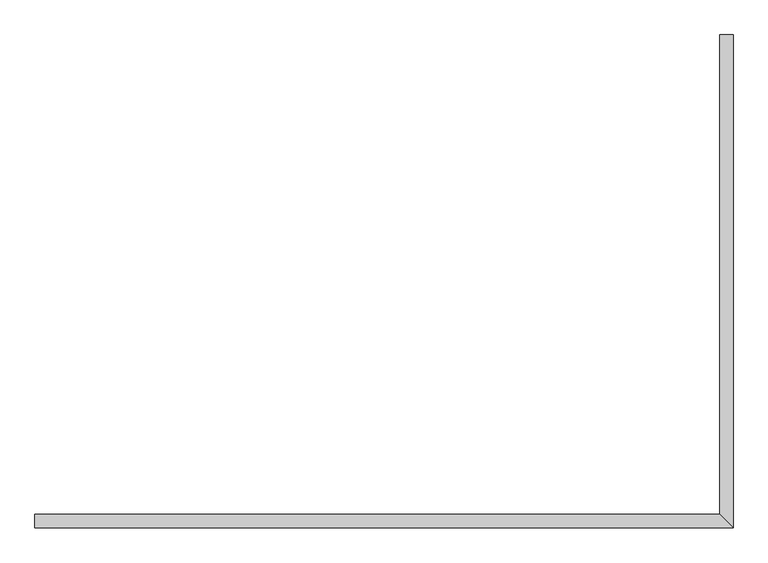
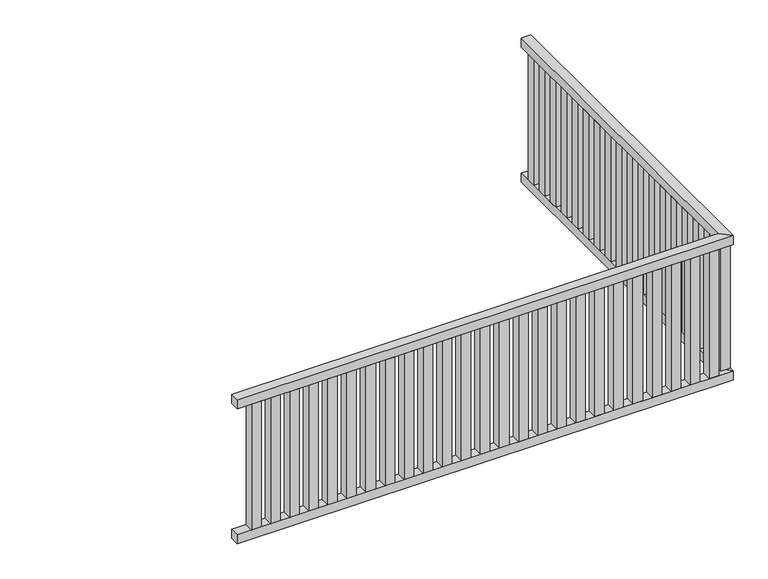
"""IFC4 building model written with IfcOpenShell, lengths in millimetres: railing geometry, creole porch rail."""

from ifc_helpers import new_model, si_unit, frame, origin, place, context, project, spatial, polyline, outline, extrude, faceted_brep, source, transform, mapped, element, save


def railing_c8e79896(model_context):
    return source(origin(), model_context, "Body", "SolidModel", [
        faceted_brep([(22068.3169554, -7066.1869756, 1981.2), (22068.3169554, -7066.1869756, 1930.4), (22068.3169554, -7116.9869756, 1930.4), (22068.3169554, -7116.9869756, 1981.2), (24659.1169554, -7066.1869756, 1981.2), (24659.1169554, -7066.1869756, 1930.4), (24709.9169554, -7116.9869756, 1930.4), (24709.9169554, -7116.9869756, 1981.2), (24659.1169554, -5250.0869756, 1981.2), (24709.9169554, -5250.0869756, 1981.2), (24709.9169554, -5250.0869756, 1930.4), (24659.1169554, -5250.0869756, 1930.4)], [[[0, 1, 2, 3]], [[1, 0, 4, 5]], [[2, 1, 5, 6]], [[3, 2, 6, 7]], [[0, 3, 7, 4]], [[8, 9, 10, 11]], [[5, 4, 8, 11]], [[6, 5, 11, 10]], [[7, 6, 10, 9]], [[4, 7, 9, 8]]]),
        faceted_brep([(22068.3169554, -7066.1869756, 1219.2), (22068.3169554, -7066.1869756, 1168.4), (22068.3169554, -7116.9869756, 1168.4), (22068.3169554, -7116.9869756, 1219.2), (24659.1169554, -7066.1869756, 1219.2), (24659.1169554, -7066.1869756, 1168.4), (24709.9169554, -7116.9869756, 1168.4), (24709.9169554, -7116.9869756, 1219.2), (24659.1169554, -5250.0869756, 1219.2), (24709.9169554, -5250.0869756, 1219.2), (24709.9169554, -5250.0869756, 1168.4), (24659.1169554, -5250.0869756, 1168.4)], [[[0, 1, 2, 3]], [[1, 0, 4, 5]], [[2, 1, 5, 6]], [[3, 2, 6, 7]], [[0, 3, 7, 4]], [[8, 9, 10, 11]], [[5, 4, 8, 11]], [[6, 5, 11, 10]], [[7, 6, 10, 9]], [[4, 7, 9, 8]]]),
        extrude(outline(polyline([(24659.1169554, -5364.3869756), (24659.1169554, -5313.5869756), (24709.9169554, -5313.5869756), (24709.9169554, -5364.3869756), (24659.1169554, -5364.3869756)])), frame((0.0, 0.0, 1219.2), z_axis=(0.0, 0.0, 1.0), x_axis=(1.0, 0.0, 0.0)), (0.0, 0.0, 1.0), 711.2),
        extrude(outline(polyline([(24659.1169554, -5465.9869756), (24659.1169554, -5415.1869756), (24709.9169554, -5415.1869756), (24709.9169554, -5465.9869756), (24659.1169554, -5465.9869756)])), frame((0.0, 0.0, 1219.2), z_axis=(0.0, 0.0, 1.0), x_axis=(1.0, 0.0, 0.0)), (0.0, 0.0, 1.0), 711.2),
        extrude(outline(polyline([(24659.1169554, -5567.5869756), (24659.1169554, -5516.7869756), (24709.9169554, -5516.7869756), (24709.9169554, -5567.5869756), (24659.1169554, -5567.5869756)])), frame((0.0, 0.0, 1219.2), z_axis=(0.0, 0.0, 1.0), x_axis=(1.0, 0.0, 0.0)), (0.0, 0.0, 1.0), 711.2),
        extrude(outline(polyline([(24659.1169554, -5669.1869756), (24659.1169554, -5618.3869756), (24709.9169554, -5618.3869756), (24709.9169554, -5669.1869756), (24659.1169554, -5669.1869756)])), frame((0.0, 0.0, 1219.2), z_axis=(0.0, 0.0, 1.0), x_axis=(1.0, 0.0, 0.0)), (0.0, 0.0, 1.0), 711.2),
        extrude(outline(polyline([(24659.1169554, -5770.7869756), (24659.1169554, -5719.9869756), (24709.9169554, -5719.9869756), (24709.9169554, -5770.7869756), (24659.1169554, -5770.7869756)])), frame((0.0, 0.0, 1219.2), z_axis=(0.0, 0.0, 1.0), x_axis=(1.0, 0.0, 0.0)), (0.0, 0.0, 1.0), 711.2),
        extrude(outline(polyline([(24659.1169554, -5872.3869756), (24659.1169554, -5821.5869756), (24709.9169554, -5821.5869756), (24709.9169554, -5872.3869756), (24659.1169554, -5872.3869756)])), frame((0.0, 0.0, 1219.2), z_axis=(0.0, 0.0, 1.0), x_axis=(1.0, 0.0, 0.0)), (0.0, 0.0, 1.0), 711.2),
        extrude(outline(polyline([(24659.1169554, -5973.9869756), (24659.1169554, -5923.1869756), (24709.9169554, -5923.1869756), (24709.9169554, -5973.9869756), (24659.1169554, -5973.9869756)])), frame((0.0, 0.0, 1219.2), z_axis=(0.0, 0.0, 1.0), x_axis=(1.0, 0.0, 0.0)), (0.0, 0.0, 1.0), 711.2),
        extrude(outline(polyline([(24659.1169554, -6075.5869756), (24659.1169554, -6024.7869756), (24709.9169554, -6024.7869756), (24709.9169554, -6075.5869756), (24659.1169554, -6075.5869756)])), frame((0.0, 0.0, 1219.2), z_axis=(0.0, 0.0, 1.0), x_axis=(1.0, 0.0, 0.0)), (0.0, 0.0, 1.0), 711.2),
        extrude(outline(polyline([(24659.1169554, -6177.1869756), (24659.1169554, -6126.3869756), (24709.9169554, -6126.3869756), (24709.9169554, -6177.1869756), (24659.1169554, -6177.1869756)])), frame((0.0, 0.0, 1219.2), z_axis=(0.0, 0.0, 1.0), x_axis=(1.0, 0.0, 0.0)), (0.0, 0.0, 1.0), 711.2),
        extrude(outline(polyline([(24659.1169554, -6278.7869756), (24659.1169554, -6227.9869756), (24709.9169554, -6227.9869756), (24709.9169554, -6278.7869756), (24659.1169554, -6278.7869756)])), frame((0.0, 0.0, 1219.2), z_axis=(0.0, 0.0, 1.0), x_axis=(1.0, 0.0, 0.0)), (0.0, 0.0, 1.0), 711.2),
        extrude(outline(polyline([(24659.1169554, -6380.3869756), (24659.1169554, -6329.5869756), (24709.9169554, -6329.5869756), (24709.9169554, -6380.3869756), (24659.1169554, -6380.3869756)])), frame((0.0, 0.0, 1219.2), z_axis=(0.0, 0.0, 1.0), x_axis=(1.0, 0.0, 0.0)), (0.0, 0.0, 1.0), 711.2),
        extrude(outline(polyline([(24659.1169554, -6481.9869756), (24659.1169554, -6431.1869756), (24709.9169554, -6431.1869756), (24709.9169554, -6481.9869756), (24659.1169554, -6481.9869756)])), frame((0.0, 0.0, 1219.2), z_axis=(0.0, 0.0, 1.0), x_axis=(1.0, 0.0, 0.0)), (0.0, 0.0, 1.0), 711.2),
        extrude(outline(polyline([(24659.1169554, -6583.5869756), (24659.1169554, -6532.7869756), (24709.9169554, -6532.7869756), (24709.9169554, -6583.5869756), (24659.1169554, -6583.5869756)])), frame((0.0, 0.0, 1219.2), z_axis=(0.0, 0.0, 1.0), x_axis=(1.0, 0.0, 0.0)), (0.0, 0.0, 1.0), 711.2),
        extrude(outline(polyline([(24659.1169554, -6685.1869756), (24659.1169554, -6634.3869756), (24709.9169554, -6634.3869756), (24709.9169554, -6685.1869756), (24659.1169554, -6685.1869756)])), frame((0.0, 0.0, 1219.2), z_axis=(0.0, 0.0, 1.0), x_axis=(1.0, 0.0, 0.0)), (0.0, 0.0, 1.0), 711.2),
        extrude(outline(polyline([(24659.1169554, -6786.7869756), (24659.1169554, -6735.9869756), (24709.9169554, -6735.9869756), (24709.9169554, -6786.7869756), (24659.1169554, -6786.7869756)])), frame((0.0, 0.0, 1219.2), z_axis=(0.0, 0.0, 1.0), x_axis=(1.0, 0.0, 0.0)), (0.0, 0.0, 1.0), 711.2),
        extrude(outline(polyline([(24659.1169554, -6888.3869756), (24659.1169554, -6837.5869756), (24709.9169554, -6837.5869756), (24709.9169554, -6888.3869756), (24659.1169554, -6888.3869756)])), frame((0.0, 0.0, 1219.2), z_axis=(0.0, 0.0, 1.0), x_axis=(1.0, 0.0, 0.0)), (0.0, 0.0, 1.0), 711.2),
        extrude(outline(polyline([(24659.1169554, -6989.9869756), (24659.1169554, -6939.1869756), (24709.9169554, -6939.1869756), (24709.9169554, -6989.9869756), (24659.1169554, -6989.9869756)])), frame((0.0, 0.0, 1219.2), z_axis=(0.0, 0.0, 1.0), x_axis=(1.0, 0.0, 0.0)), (0.0, 0.0, 1.0), 711.2),
        extrude(outline(polyline([(24659.1169554, -7091.5869756), (24659.1169554, -7040.7869756), (24709.9169554, -7040.7869756), (24709.9169554, -7091.5869756), (24659.1169554, -7091.5869756)])), frame((0.0, 0.0, 1219.2), z_axis=(0.0, 0.0, 1.0), x_axis=(1.0, 0.0, 0.0)), (0.0, 0.0, 1.0), 711.2),
        extrude(outline(polyline([(24582.9169554, -7066.1869756), (24633.7169554, -7066.1869756), (24633.7169554, -7116.9869756), (24582.9169554, -7116.9869756), (24582.9169554, -7066.1869756)])), frame((0.0, 0.0, 1219.2), z_axis=(0.0, 0.0, 1.0), x_axis=(1.0, 0.0, 0.0)), (0.0, 0.0, 1.0), 711.2),
        extrude(outline(polyline([(24481.3169554, -7066.1869756), (24532.1169554, -7066.1869756), (24532.1169554, -7116.9869756), (24481.3169554, -7116.9869756), (24481.3169554, -7066.1869756)])), frame((0.0, 0.0, 1219.2), z_axis=(0.0, 0.0, 1.0), x_axis=(1.0, 0.0, 0.0)), (0.0, 0.0, 1.0), 711.2),
        extrude(outline(polyline([(24379.7169554, -7066.1869756), (24430.5169554, -7066.1869756), (24430.5169554, -7116.9869756), (24379.7169554, -7116.9869756), (24379.7169554, -7066.1869756)])), frame((0.0, 0.0, 1219.2), z_axis=(0.0, 0.0, 1.0), x_axis=(1.0, 0.0, 0.0)), (0.0, 0.0, 1.0), 711.2),
        extrude(outline(polyline([(24278.1169554, -7066.1869756), (24328.9169554, -7066.1869756), (24328.9169554, -7116.9869756), (24278.1169554, -7116.9869756), (24278.1169554, -7066.1869756)])), frame((0.0, 0.0, 1219.2), z_axis=(0.0, 0.0, 1.0), x_axis=(1.0, 0.0, 0.0)), (0.0, 0.0, 1.0), 711.2),
        extrude(outline(polyline([(24176.5169554, -7066.1869756), (24227.3169554, -7066.1869756), (24227.3169554, -7116.9869756), (24176.5169554, -7116.9869756), (24176.5169554, -7066.1869756)])), frame((0.0, 0.0, 1219.2), z_axis=(0.0, 0.0, 1.0), x_axis=(1.0, 0.0, 0.0)), (0.0, 0.0, 1.0), 711.2),
        extrude(outline(polyline([(24074.9169554, -7066.1869756), (24125.7169554, -7066.1869756), (24125.7169554, -7116.9869756), (24074.9169554, -7116.9869756), (24074.9169554, -7066.1869756)])), frame((0.0, 0.0, 1219.2), z_axis=(0.0, 0.0, 1.0), x_axis=(1.0, 0.0, 0.0)), (0.0, 0.0, 1.0), 711.2),
        extrude(outline(polyline([(23973.3169554, -7066.1869756), (24024.1169554, -7066.1869756), (24024.1169554, -7116.9869756), (23973.3169554, -7116.9869756), (23973.3169554, -7066.1869756)])), frame((0.0, 0.0, 1219.2), z_axis=(0.0, 0.0, 1.0), x_axis=(1.0, 0.0, 0.0)), (0.0, 0.0, 1.0), 711.2),
        extrude(outline(polyline([(23871.7169554, -7066.1869756), (23922.5169554, -7066.1869756), (23922.5169554, -7116.9869756), (23871.7169554, -7116.9869756), (23871.7169554, -7066.1869756)])), frame((0.0, 0.0, 1219.2), z_axis=(0.0, 0.0, 1.0), x_axis=(1.0, 0.0, 0.0)), (0.0, 0.0, 1.0), 711.2),
        extrude(outline(polyline([(23770.1169554, -7066.1869756), (23820.9169554, -7066.1869756), (23820.9169554, -7116.9869756), (23770.1169554, -7116.9869756), (23770.1169554, -7066.1869756)])), frame((0.0, 0.0, 1219.2), z_axis=(0.0, 0.0, 1.0), x_axis=(1.0, 0.0, 0.0)), (0.0, 0.0, 1.0), 711.2),
        extrude(outline(polyline([(23668.5169554, -7066.1869756), (23719.3169554, -7066.1869756), (23719.3169554, -7116.9869756), (23668.5169554, -7116.9869756), (23668.5169554, -7066.1869756)])), frame((0.0, 0.0, 1219.2), z_axis=(0.0, 0.0, 1.0), x_axis=(1.0, 0.0, 0.0)), (0.0, 0.0, 1.0), 711.2),
        extrude(outline(polyline([(23566.9169554, -7066.1869756), (23617.7169554, -7066.1869756), (23617.7169554, -7116.9869756), (23566.9169554, -7116.9869756), (23566.9169554, -7066.1869756)])), frame((0.0, 0.0, 1219.2), z_axis=(0.0, 0.0, 1.0), x_axis=(1.0, 0.0, 0.0)), (0.0, 0.0, 1.0), 711.2),
        extrude(outline(polyline([(23465.3169554, -7066.1869756), (23516.1169554, -7066.1869756), (23516.1169554, -7116.9869756), (23465.3169554, -7116.9869756), (23465.3169554, -7066.1869756)])), frame((0.0, 0.0, 1219.2), z_axis=(0.0, 0.0, 1.0), x_axis=(1.0, 0.0, 0.0)), (0.0, 0.0, 1.0), 711.2),
        extrude(outline(polyline([(23363.7169554, -7066.1869756), (23414.5169554, -7066.1869756), (23414.5169554, -7116.9869756), (23363.7169554, -7116.9869756), (23363.7169554, -7066.1869756)])), frame((0.0, 0.0, 1219.2), z_axis=(0.0, 0.0, 1.0), x_axis=(1.0, 0.0, 0.0)), (0.0, 0.0, 1.0), 711.2),
        extrude(outline(polyline([(23262.1169554, -7066.1869756), (23312.9169554, -7066.1869756), (23312.9169554, -7116.9869756), (23262.1169554, -7116.9869756), (23262.1169554, -7066.1869756)])), frame((0.0, 0.0, 1219.2), z_axis=(0.0, 0.0, 1.0), x_axis=(1.0, 0.0, 0.0)), (0.0, 0.0, 1.0), 711.2),
        extrude(outline(polyline([(23160.5169554, -7066.1869756), (23211.3169554, -7066.1869756), (23211.3169554, -7116.9869756), (23160.5169554, -7116.9869756), (23160.5169554, -7066.1869756)])), frame((0.0, 0.0, 1219.2), z_axis=(0.0, 0.0, 1.0), x_axis=(1.0, 0.0, 0.0)), (0.0, 0.0, 1.0), 711.2),
        extrude(outline(polyline([(23058.9169554, -7066.1869756), (23109.7169554, -7066.1869756), (23109.7169554, -7116.9869756), (23058.9169554, -7116.9869756), (23058.9169554, -7066.1869756)])), frame((0.0, 0.0, 1219.2), z_axis=(0.0, 0.0, 1.0), x_axis=(1.0, 0.0, 0.0)), (0.0, 0.0, 1.0), 711.2),
        extrude(outline(polyline([(22957.3169554, -7066.1869756), (23008.1169554, -7066.1869756), (23008.1169554, -7116.9869756), (22957.3169554, -7116.9869756), (22957.3169554, -7066.1869756)])), frame((0.0, 0.0, 1219.2), z_axis=(0.0, 0.0, 1.0), x_axis=(1.0, 0.0, 0.0)), (0.0, 0.0, 1.0), 711.2),
        extrude(outline(polyline([(22855.7169554, -7066.1869756), (22906.5169554, -7066.1869756), (22906.5169554, -7116.9869756), (22855.7169554, -7116.9869756), (22855.7169554, -7066.1869756)])), frame((0.0, 0.0, 1219.2), z_axis=(0.0, 0.0, 1.0), x_axis=(1.0, 0.0, 0.0)), (0.0, 0.0, 1.0), 711.2),
        extrude(outline(polyline([(22754.1169554, -7066.1869756), (22804.9169554, -7066.1869756), (22804.9169554, -7116.9869756), (22754.1169554, -7116.9869756), (22754.1169554, -7066.1869756)])), frame((0.0, 0.0, 1219.2), z_axis=(0.0, 0.0, 1.0), x_axis=(1.0, 0.0, 0.0)), (0.0, 0.0, 1.0), 711.2),
        extrude(outline(polyline([(22652.5169554, -7066.1869756), (22703.3169554, -7066.1869756), (22703.3169554, -7116.9869756), (22652.5169554, -7116.9869756), (22652.5169554, -7066.1869756)])), frame((0.0, 0.0, 1219.2), z_axis=(0.0, 0.0, 1.0), x_axis=(1.0, 0.0, 0.0)), (0.0, 0.0, 1.0), 711.2),
        extrude(outline(polyline([(22550.9169554, -7066.1869756), (22601.7169554, -7066.1869756), (22601.7169554, -7116.9869756), (22550.9169554, -7116.9869756), (22550.9169554, -7066.1869756)])), frame((0.0, 0.0, 1219.2), z_axis=(0.0, 0.0, 1.0), x_axis=(1.0, 0.0, 0.0)), (0.0, 0.0, 1.0), 711.2),
        extrude(outline(polyline([(22449.3169554, -7066.1869756), (22500.1169554, -7066.1869756), (22500.1169554, -7116.9869756), (22449.3169554, -7116.9869756), (22449.3169554, -7066.1869756)])), frame((0.0, 0.0, 1219.2), z_axis=(0.0, 0.0, 1.0), x_axis=(1.0, 0.0, 0.0)), (0.0, 0.0, 1.0), 711.2),
        extrude(outline(polyline([(22347.7169554, -7066.1869756), (22398.5169554, -7066.1869756), (22398.5169554, -7116.9869756), (22347.7169554, -7116.9869756), (22347.7169554, -7066.1869756)])), frame((0.0, 0.0, 1219.2), z_axis=(0.0, 0.0, 1.0), x_axis=(1.0, 0.0, 0.0)), (0.0, 0.0, 1.0), 711.2),
        extrude(outline(polyline([(22246.1169554, -7066.1869756), (22296.9169554, -7066.1869756), (22296.9169554, -7116.9869756), (22246.1169554, -7116.9869756), (22246.1169554, -7066.1869756)])), frame((0.0, 0.0, 1219.2), z_axis=(0.0, 0.0, 1.0), x_axis=(1.0, 0.0, 0.0)), (0.0, 0.0, 1.0), 711.2),
        extrude(outline(polyline([(22144.5169554, -7066.1869756), (22195.3169554, -7066.1869756), (22195.3169554, -7116.9869756), (22144.5169554, -7116.9869756), (22144.5169554, -7066.1869756)])), frame((0.0, 0.0, 1219.2), z_axis=(0.0, 0.0, 1.0), x_axis=(1.0, 0.0, 0.0)), (0.0, 0.0, 1.0), 711.2),
    ])


if __name__ == "__main__":
    model = new_model("IFC4")
    model_context = context("Model", 3, world=origin())
    ifc_project = project(units=[si_unit("LENGTHUNIT", "METRE", prefix="MILLI")], contexts=[model_context])
    site = spatial("IfcSite", under=ifc_project)
    building = spatial("IfcBuilding", under=site)
    placement = place(None, origin())
    railing_shape = railing_c8e79896(model_context)
    element("IfcRailing", 1, ObjectType="creole porch rail", at=placement, inside=building, context=model_context, shape_type="MappedRepresentation", body=[
        mapped(railing_shape, transform((0.0, 0.0, 0.0), x_axis=(1.0, 0.0, 0.0), y_axis=(0.0, 1.0, 0.0), z_axis=(0.0, 0.0, 1.0))),
    ])
    save(model, "model.ifc")
